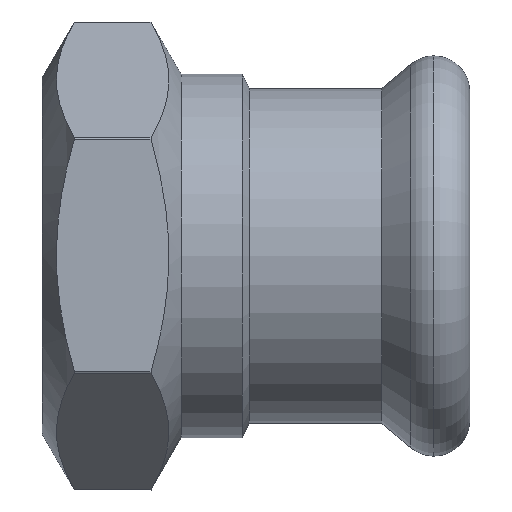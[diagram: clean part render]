
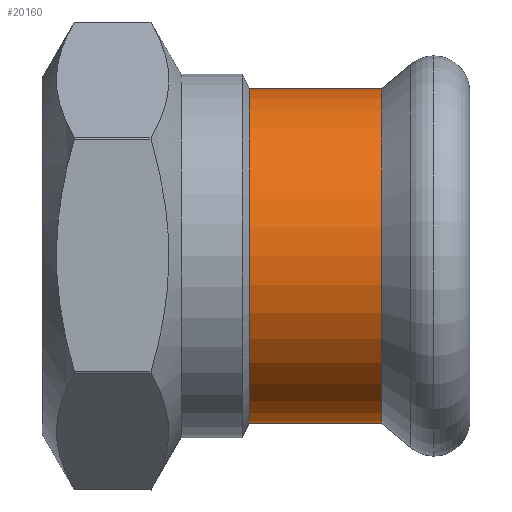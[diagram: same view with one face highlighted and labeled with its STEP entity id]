
A CAD part, top view. The second image highlights one B-rep face of the part: STEP entity #20160.
In plain terms, the highlighted cylindrical face has radius 15.65 mm (diameter 31.3 mm), a partial arc.
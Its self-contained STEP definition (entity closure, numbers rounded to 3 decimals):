
#18360=CARTESIAN_POINT('',(269.524,29.227,
0.));
#18370=VERTEX_POINT('',#18360);
#18450=CARTESIAN_POINT('',(269.524,60.527,0.));
#18460=VERTEX_POINT('',#18450);
#18490=CARTESIAN_POINT('',(269.524,44.877,0.));
#18500=DIRECTION('',(-1.,0.,0.));
#18510=DIRECTION('',(0.,1.,0.));
#18520=AXIS2_PLACEMENT_3D('',#18490,#18500,#18510);
#18530=CIRCLE('',#18520,15.65);
#18540=EDGE_CURVE('',#18370,#18460,#18530,.T.);
#19610=CARTESIAN_POINT('',(281.925,29.227,0.));
#19620=VERTEX_POINT('',#19610);
#19800=CARTESIAN_POINT('',(281.925,60.527,
0.));
#19810=VERTEX_POINT('',#19800);
#19840=CARTESIAN_POINT('',(281.925,44.877,0.));
#19850=DIRECTION('',(1.,0.,0.));
#19860=DIRECTION('',(0.,1.,0.));
#19870=AXIS2_PLACEMENT_3D('',#19840,#19850,#19860);
#19880=CIRCLE('',#19870,15.65);
#19940=CARTESIAN_POINT('',(274.12,44.877,0.));
#19950=DIRECTION('',(-1.,0.,0.));
#19960=DIRECTION('',(0.,1.,0.));
#19970=AXIS2_PLACEMENT_3D('',#19940,#19950,#19960);
#19980=CYLINDRICAL_SURFACE('',#19970,15.65);
#19990=CARTESIAN_POINT('',(274.12,60.527,0.));
#20000=DIRECTION('',(-1.,0.,0.));
#20010=VECTOR('',#20000,1.);
#20020=LINE('',#19990,#20010);
#20030=EDGE_CURVE('',#19810,#18460,#20020,.T.);
#20040=ORIENTED_EDGE('',*,*,#20030,.T.);
#20050=EDGE_CURVE('',#19810,#19620,#19880,.T.);
#20060=ORIENTED_EDGE('',*,*,#20050,.F.);
#20070=CARTESIAN_POINT('',(274.12,29.227,
0.));
#20080=DIRECTION('',(-1.,0.,0.));
#20090=VECTOR('',#20080,1.);
#20100=LINE('',#20070,#20090);
#20110=EDGE_CURVE('',#19620,#18370,#20100,.T.);
#20120=ORIENTED_EDGE('',*,*,#20110,.F.);
#20130=ORIENTED_EDGE('',*,*,#18540,.F.);
#20140=EDGE_LOOP('',(#20130,#20120,#20060,#20040));
#20150=FACE_OUTER_BOUND('',#20140,.T.);
#20160=ADVANCED_FACE('',(#20150),#19980,.T.);
